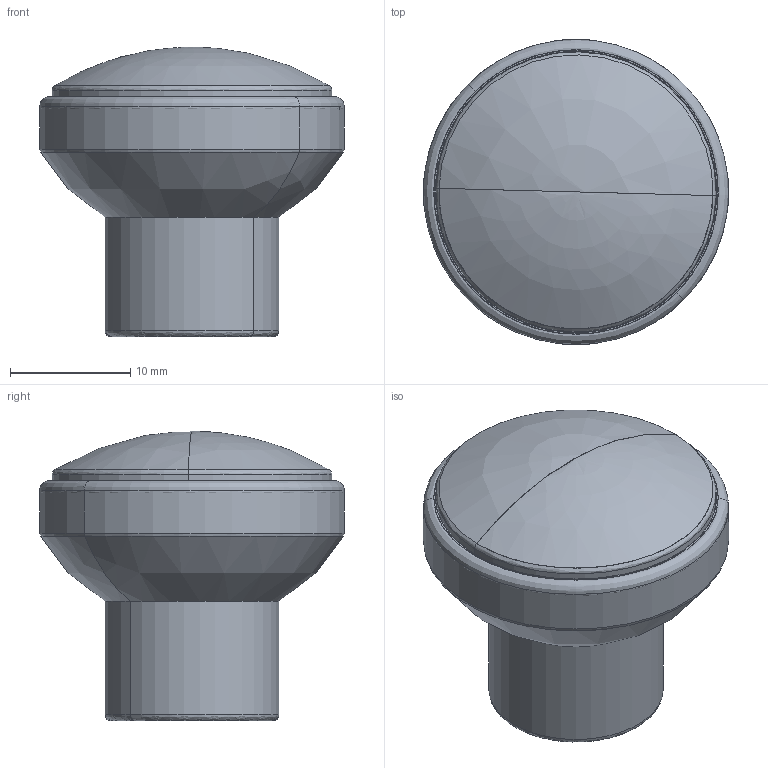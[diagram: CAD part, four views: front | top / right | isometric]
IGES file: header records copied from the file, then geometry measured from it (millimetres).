
Start section: Comment
Global section: file name: 028-25I.igs; native system: Parasolid(12.0); preprocessor: Pariges 4.4; author: Author; organization: Title; date: 20181104.075442; units: millimetre
Bounding box: 25.39 x 25.39 x 24.1 mm (x, y, z)
Surface area: 5251.5 mm2 (no closed solid volume)
Topology: 0 solids, 0 shells, 52 faces, 580 edges, 572 vertices
Faces by surface type: revolution 38, extrusion 14
